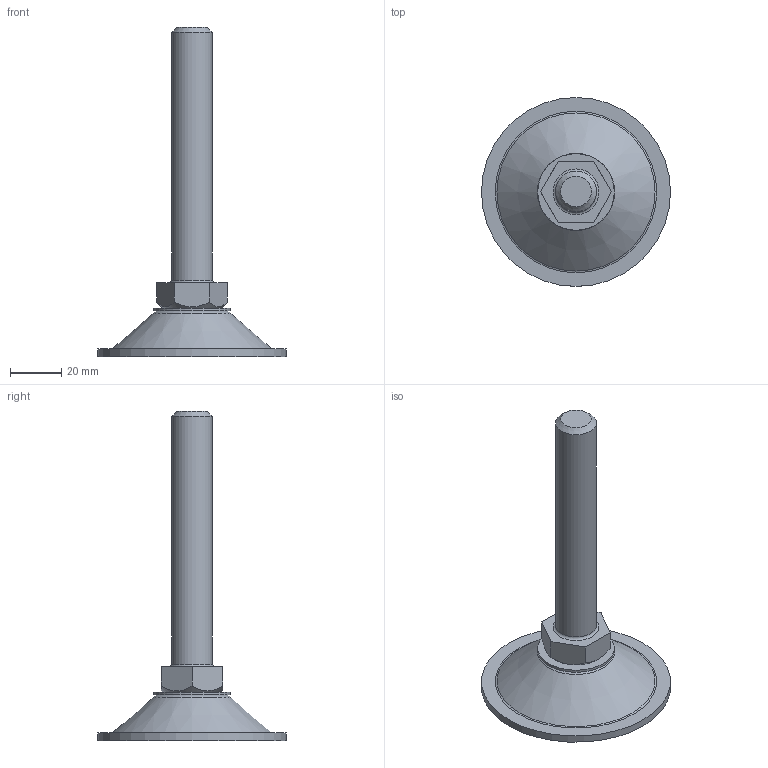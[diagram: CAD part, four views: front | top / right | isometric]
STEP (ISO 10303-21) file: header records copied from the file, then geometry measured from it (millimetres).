
FILE_DESCRIPTION(/* description */ (''),/* implementation_level */ '2;1');
FILE_NAME(/* name */ 'D:\조절자\PF\PF-M16-100L.stp',/* time_stamp */ '2016-03-14T14:56:08+09:00',/* author */ ('GS-DT-1-001'),/* organization */ (''),/* preprocessor_version */ 'ST-DEVELOPER v15.6',/* originating_system */ 'Autodesk Inventor LT ',/* authorisation */ '');
FILE_SCHEMA (('AUTOMOTIVE_DESIGN { 1 0 10303 214 3 1 1 }'));
Length unit declared in the file: millimetre
Products named in the file (1): PF-M16-100L
Bounding box: 74 x 74 x 129 mm (x, y, z)
Volume: 41564 mm3; surface area: 19995.1 mm2
Topology: 4 solids, 4 shells, 37 faces, 70 edges, 45 vertices
Faces by surface type: plane 18, cylinder 8, cone 6, torus 5
Full cylindrical faces by diameter (mm): 6.912 x1, 8 x1, 8.2 x1, 8.3 x1, 16 x2, 30 x1, 74 x1
Entity records: 815 total; most frequent: DIRECTION 144, CARTESIAN_POINT 136, ORIENTED_EDGE 92, AXIS2_PLACEMENT_3D 66, EDGE_LOOP 64, EDGE_CURVE 46, VERTEX_POINT 40, FACE_OUTER_BOUND 37
